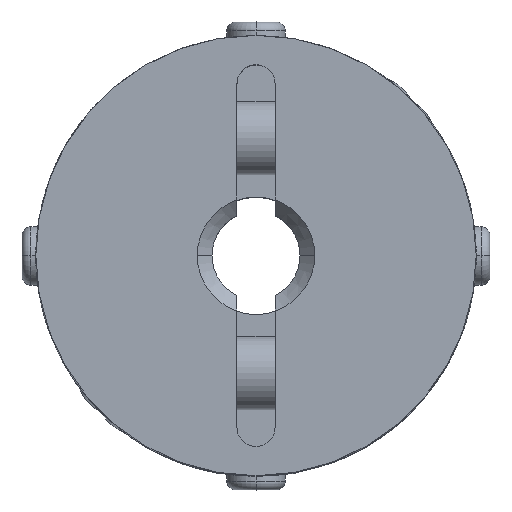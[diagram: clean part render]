
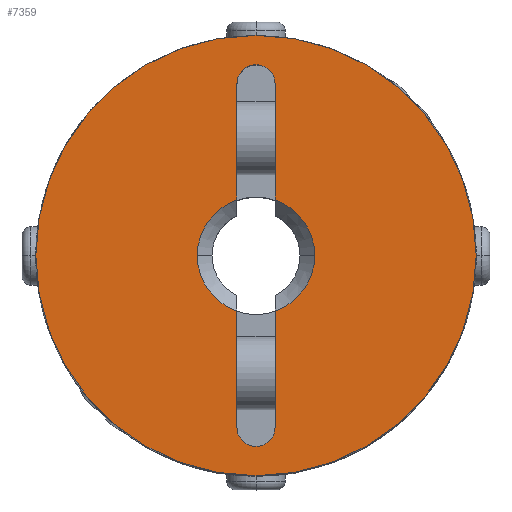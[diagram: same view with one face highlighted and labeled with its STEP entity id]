
A CAD part, top view. The second image highlights one B-rep face of the part: STEP entity #7359.
In plain terms, the highlighted planar face has unit normal (0, 0, 1).
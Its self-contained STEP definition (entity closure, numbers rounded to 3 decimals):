
#1033=CARTESIAN_POINT('',(-7.5,0.,9.0));
#1034=VERTEX_POINT('',#1033);
#1041=CARTESIAN_POINT('',(7.5,0.0,9.0));
#1042=VERTEX_POINT('',#1041);
#1043=CARTESIAN_POINT('',(0.0,0.0,9.0));
#1044=DIRECTION('',(0.0,0.0,-1.0));
#1045=DIRECTION('',(1.0,0.0,0.0));
#1046=AXIS2_PLACEMENT_3D('',#1043,#1044,#1045);
#1047=CIRCLE('',#1046,7.5);
#1048=EDGE_CURVE('',#1034,#1042,#1047,.T.);
#1400=CARTESIAN_POINT('',(2.0,0.,9.0));
#1401=VERTEX_POINT('',#1400);
#1408=CARTESIAN_POINT('',(0.65,1.891,9.0));
#1409=VERTEX_POINT('',#1408);
#1410=CARTESIAN_POINT('',(0.0,0.0,9.0));
#1411=DIRECTION('',(0.0,0.0,1.0));
#1412=DIRECTION('',(-1.0,0.0,0.0));
#1413=AXIS2_PLACEMENT_3D('',#1410,#1411,#1412);
#1414=CIRCLE('',#1413,2.0);
#1415=EDGE_CURVE('',#1401,#1409,#1414,.T.);
#1439=CARTESIAN_POINT('',(-2.0,0.,9.0));
#1440=VERTEX_POINT('',#1439);
#1448=CARTESIAN_POINT('',(-0.65,1.891,9.0));
#1449=VERTEX_POINT('',#1448);
#1463=CARTESIAN_POINT('',(0.0,0.0,9.0));
#1464=DIRECTION('',(0.0,0.0,1.0));
#1465=DIRECTION('',(-1.0,0.0,0.0));
#1466=AXIS2_PLACEMENT_3D('',#1463,#1464,#1465);
#1467=CIRCLE('',#1466,2.0);
#1468=EDGE_CURVE('',#1449,#1440,#1467,.T.);
#1478=CARTESIAN_POINT('',(0.46,6.31,9.0));
#1479=VERTEX_POINT('',#1478);
#1488=CARTESIAN_POINT('',(-0.65,5.85,9.0));
#1489=VERTEX_POINT('',#1488);
#1490=CARTESIAN_POINT('',(0.,5.85,9.0));
#1491=DIRECTION('',(0.0,0.0,1.0));
#1492=DIRECTION('',(0.707,0.707,0.0));
#1493=AXIS2_PLACEMENT_3D('',#1490,#1491,#1492);
#1494=CIRCLE('',#1493,0.65);
#1495=EDGE_CURVE('',#1479,#1489,#1494,.T.);
#1520=CARTESIAN_POINT('',(0.46,-6.31,9.0));
#1521=VERTEX_POINT('',#1520);
#1530=CARTESIAN_POINT('',(0.65,-5.85,9.0));
#1531=VERTEX_POINT('',#1530);
#1532=CARTESIAN_POINT('',(0.,-5.85,9.0));
#1533=DIRECTION('',(0.0,0.0,1.0));
#1534=DIRECTION('',(-0.707,-0.707,0.0));
#1535=AXIS2_PLACEMENT_3D('',#1532,#1533,#1534);
#1536=CIRCLE('',#1535,0.65);
#1537=EDGE_CURVE('',#1521,#1531,#1536,.T.);
#7085=CARTESIAN_POINT('',(-0.65,-5.85,9.0));
#7086=VERTEX_POINT('',#7085);
#7093=CARTESIAN_POINT('',(0.,-5.85,9.0));
#7094=DIRECTION('',(0.0,0.0,1.0));
#7095=DIRECTION('',(-0.707,-0.707,0.0));
#7096=AXIS2_PLACEMENT_3D('',#7093,#7094,#7095);
#7097=CIRCLE('',#7096,0.65);
#7098=EDGE_CURVE('',#7086,#1521,#7097,.T.);
#7109=CARTESIAN_POINT('',(0.65,-1.891,9.0));
#7110=VERTEX_POINT('',#7109);
#7111=CARTESIAN_POINT('',(0.65,-1.891,9.0));
#7112=DIRECTION('',(0.0,-1.0,0.0));
#7113=VECTOR('',#7112,3.959);
#7114=LINE('',#7111,#7113);
#7115=EDGE_CURVE('',#7110,#1531,#7114,.T.);
#7158=CARTESIAN_POINT('',(-0.65,1.891,9.0));
#7159=DIRECTION('',(0.0,1.0,0.0));
#7160=VECTOR('',#7159,3.959);
#7161=LINE('',#7158,#7160);
#7162=EDGE_CURVE('',#1449,#1489,#7161,.T.);
#7209=CARTESIAN_POINT('',(0.65,5.85,9.0));
#7210=VERTEX_POINT('',#7209);
#7217=CARTESIAN_POINT('',(0.,5.85,9.0));
#7218=DIRECTION('',(0.0,0.0,1.0));
#7219=DIRECTION('',(0.707,0.707,0.0));
#7220=AXIS2_PLACEMENT_3D('',#7217,#7218,#7219);
#7221=CIRCLE('',#7220,0.65);
#7222=EDGE_CURVE('',#7210,#1479,#7221,.T.);
#7256=CARTESIAN_POINT('',(0.65,5.85,9.0));
#7257=DIRECTION('',(0.0,-1.0,0.0));
#7258=VECTOR('',#7257,3.959);
#7259=LINE('',#7256,#7258);
#7260=EDGE_CURVE('',#7210,#1409,#7259,.T.);
#7290=CARTESIAN_POINT('',(-0.65,-1.891,9.0));
#7291=VERTEX_POINT('',#7290);
#7305=CARTESIAN_POINT('',(-0.65,-5.85,9.0));
#7306=DIRECTION('',(0.0,1.0,0.0));
#7307=VECTOR('',#7306,3.959);
#7308=LINE('',#7305,#7307);
#7309=EDGE_CURVE('',#7086,#7291,#7308,.T.);
#7318=CARTESIAN_POINT('',(0.682,0.,9.0));
#7319=DIRECTION('',(0.0,0.0,1.0));
#7320=DIRECTION('',(1.0,0.0,0.0));
#7321=AXIS2_PLACEMENT_3D('',#7318,#7319,#7320);
#7322=PLANE('',#7321);
#7323=CARTESIAN_POINT('',(0.0,0.0,9.0));
#7324=DIRECTION('',(0.0,0.0,-1.0));
#7325=DIRECTION('',(1.0,0.0,0.0));
#7326=AXIS2_PLACEMENT_3D('',#7323,#7324,#7325);
#7327=CIRCLE('',#7326,7.5);
#7328=EDGE_CURVE('',#1042,#1034,#7327,.T.);
#7329=ORIENTED_EDGE('',*,*,#7328,.F.);
#7330=ORIENTED_EDGE('',*,*,#1048,.F.);
#7331=EDGE_LOOP('',(#7329,#7330));
#7332=FACE_OUTER_BOUND('',#7331,.T.);
#7333=ORIENTED_EDGE('',*,*,#7115,.T.);
#7334=ORIENTED_EDGE('',*,*,#1537,.F.);
#7335=ORIENTED_EDGE('',*,*,#7098,.F.);
#7336=ORIENTED_EDGE('',*,*,#7309,.T.);
#7337=CARTESIAN_POINT('',(0.0,0.0,9.0));
#7338=DIRECTION('',(0.0,0.0,1.0));
#7339=DIRECTION('',(-1.0,0.0,0.0));
#7340=AXIS2_PLACEMENT_3D('',#7337,#7338,#7339);
#7341=CIRCLE('',#7340,2.0);
#7342=EDGE_CURVE('',#1440,#7291,#7341,.T.);
#7343=ORIENTED_EDGE('',*,*,#7342,.F.);
#7344=ORIENTED_EDGE('',*,*,#1468,.F.);
#7345=ORIENTED_EDGE('',*,*,#7162,.T.);
#7346=ORIENTED_EDGE('',*,*,#1495,.F.);
#7347=ORIENTED_EDGE('',*,*,#7222,.F.);
#7348=ORIENTED_EDGE('',*,*,#7260,.T.);
#7349=ORIENTED_EDGE('',*,*,#1415,.F.);
#7350=CARTESIAN_POINT('',(0.0,0.0,9.0));
#7351=DIRECTION('',(0.0,0.0,1.0));
#7352=DIRECTION('',(-1.0,0.0,0.0));
#7353=AXIS2_PLACEMENT_3D('',#7350,#7351,#7352);
#7354=CIRCLE('',#7353,2.0);
#7355=EDGE_CURVE('',#7110,#1401,#7354,.T.);
#7356=ORIENTED_EDGE('',*,*,#7355,.F.);
#7357=EDGE_LOOP('',(#7333,#7334,#7335,#7336,#7343,#7344,#7345,#7346,#7347,#7348,#7349,#7356));
#7358=FACE_BOUND('',#7357,.T.);
#7359=ADVANCED_FACE('',(#7332,#7358),#7322,.T.);
